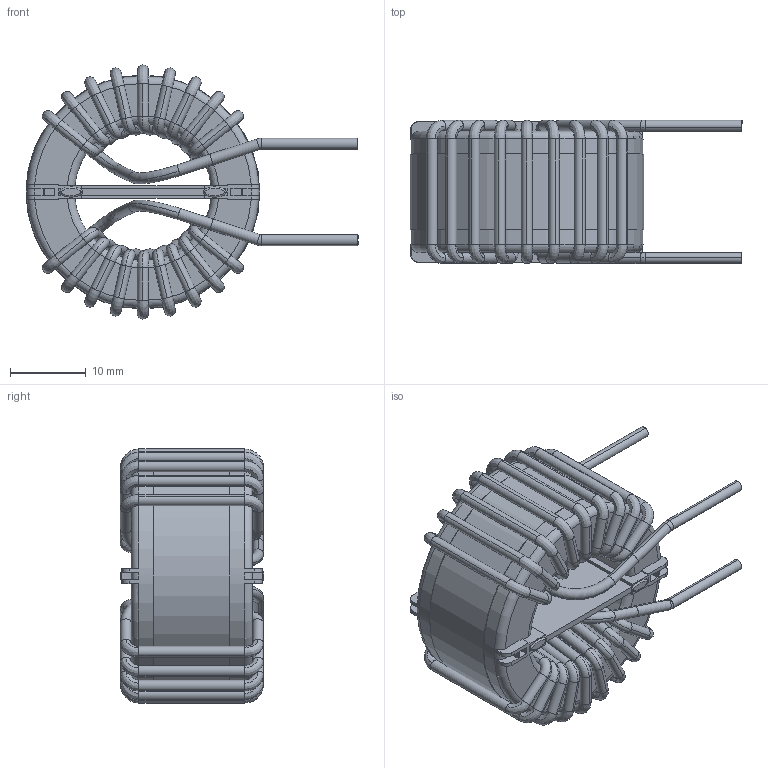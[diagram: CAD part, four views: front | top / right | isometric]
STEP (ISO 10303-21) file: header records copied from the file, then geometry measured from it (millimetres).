
FILE_DESCRIPTION (( 'STEP AP203' ), '1' );
FILE_NAME ('HN-V-762U-12A.STEP', '2020-06-30T13:43:42', ( 'Windows User' ), ( '' ), 'SwSTEP 2.0', 'SolidWorks 2015', '' );
FILE_SCHEMA (( 'CONFIG_CONTROL_DESIGN' ));
Length unit declared in the file: millimetre
Products named in the file (1): HN-V-762U-12A
Bounding box: 43.74 x 18.88 x 33.48 mm (x, y, z)
Volume: 9754.1 mm3; surface area: 10970.3 mm2
Topology: 13 solids, 13 shells, 571 faces, 1623 edges, 1080 vertices
Faces by surface type: cylinder 207, plane 132, bspline 124, torus 108
Entity records: 26835 total; most frequent: CARTESIAN_POINT 12300, ORIENTED_EDGE 3246, DIRECTION 2999, EDGE_CURVE 1623, AXIS2_PLACEMENT_3D 1232, VERTEX_POINT 1080, CIRCLE 784, EDGE_LOOP 577
